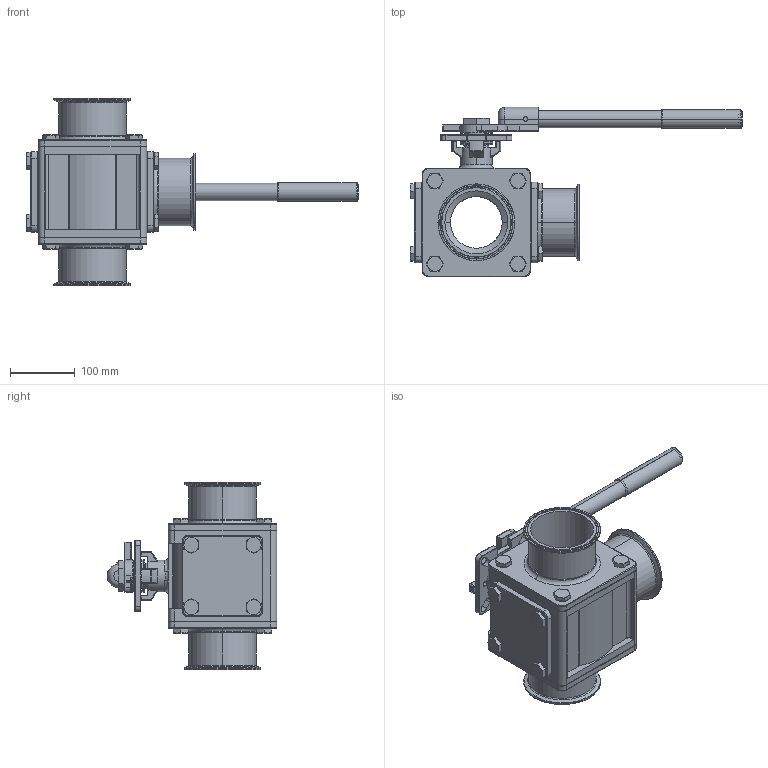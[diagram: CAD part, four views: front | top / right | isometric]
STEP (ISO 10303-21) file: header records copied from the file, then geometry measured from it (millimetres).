
FILE_DESCRIPTION (( 'STEP AP203' ), '1' );
FILE_NAME ('EG93CCC-64.0-T.STEP', '2019-07-02T02:30:54', ( '' ), ( '' ), 'SwSTEP 2.0', 'SolidWorks 2014', '' );
FILE_SCHEMA (( 'CONFIG_CONTROL_DESIGN' ));
Length unit declared in the file: millimetre
Products named in the file (24): 19.3WAY-CAP4.0; 8.STEM PACKING3.0-4.0; 12.3WAY-NUT3.0-4.0; 6.THRUST WASHER3.0-4.0; 14.HANDLE2.5-4.0-3; 14.HANDLE3.0-4.0-1; 1.3WAY-BODY4.0; 4.SEAT1-4.0; 9.RING3.0-4.0; 2.3WAY-CAP-C-4.0B; 14.HANDLE3.0-4.0-2; 2.3WAY-CAP-C-4.0S; 15.SPRING WASHER4.0; 10.BEVEL WASHER3.0-4.0; 16.BOLT4.0; 21.PLAIN WASHER3.0-4.0; 3.3WAY-BALL-4.0-T; 13.STEM3.0-4.0; EG93CCC-64.0-T; 20.SEAT BACK4.0; 18.THINNER NUT3.0-4.0; 22.SEAT2-4.0; 7.O-RING3.0-4.0; 17.LOCKING TAB3.0-4.0
Assembly tree (57 placements, depth 2):
  EG93CCC-64.0-T
    1.3WAY-BODY4.0
    4.SEAT1-4.0  x2
    20.SEAT BACK4.0
    22.SEAT2-4.0  x2
    13.STEM3.0-4.0
    6.THRUST WASHER3.0-4.0
    7.O-RING3.0-4.0
    2.3WAY-CAP-C-4.0S
    2.3WAY-CAP-C-4.0B  x2
    19.3WAY-CAP4.0
    15.SPRING WASHER4.0  x16
    16.BOLT4.0  x16
    8.STEM PACKING3.0-4.0
    9.RING3.0-4.0
    10.BEVEL WASHER3.0-4.0  x2
    18.THINNER NUT3.0-4.0
    17.LOCKING TAB3.0-4.0
    21.PLAIN WASHER3.0-4.0
    14.HANDLE2.5-4.0-3
    14.HANDLE3.0-4.0-1
    14.HANDLE3.0-4.0-2
    12.3WAY-NUT3.0-4.0
    3.3WAY-BALL-4.0-T
Bounding box: 513.7 x 262.39 x 290 mm (x, y, z)
Volume: 3970595.1 mm3; surface area: 964309.4 mm2
Topology: 58 solids, 58 shells, 1569 faces, 3533 edges, 2084 vertices
Faces by surface type: cylinder 560, plane 406, cone 265, torus 224, sphere 58, bspline 56
Entity records: 36632 total; most frequent: CARTESIAN_POINT 8545, DIRECTION 5674, ORIENTED_EDGE 4876, EDGE_CURVE 2438, AXIS2_PLACEMENT_3D 2405, VERTEX_POINT 1440, CIRCLE 1334, EDGE_LOOP 1180
